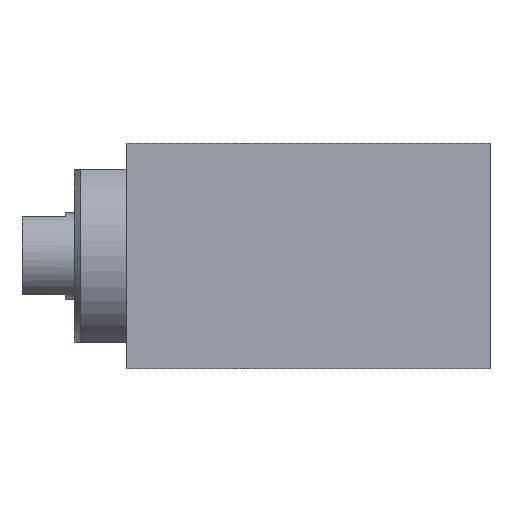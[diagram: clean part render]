
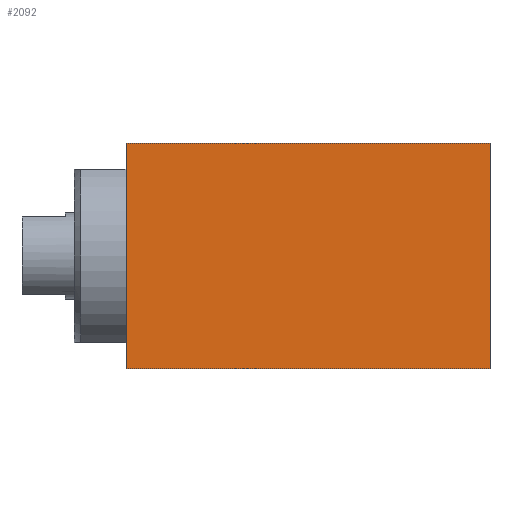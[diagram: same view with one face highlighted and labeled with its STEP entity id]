
A CAD part, front view. The second image highlights one B-rep face of the part: STEP entity #2092.
In plain terms, the highlighted planar face has unit normal (0, -1, 0).
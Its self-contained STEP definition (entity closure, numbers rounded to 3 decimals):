
#29 = DIRECTION ( 'NONE',  ( 0., -1., 0. ) ) ;
#37 = VERTEX_POINT ( 'NONE', #153 ) ;
#45 = ORIENTED_EDGE ( 'NONE', *, *, #1684, .F. ) ;
#72 = VECTOR ( 'NONE', #2590, 1000. ) ;
#75 = VERTEX_POINT ( 'NONE', #2902 ) ;
#120 = CARTESIAN_POINT ( 'NONE',  ( 21., -11., -6.5 ) ) ;
#153 = CARTESIAN_POINT ( 'NONE',  ( 0., -11., -6.5 ) ) ;
#212 = VERTEX_POINT ( 'NONE', #418 ) ;
#220 = DIRECTION ( 'NONE',  ( 0., 0., 1. ) ) ;
#271 = VECTOR ( 'NONE', #291, 1000. ) ;
#272 = DIRECTION ( 'NONE',  ( 0., 0., 1. ) ) ;
#291 = DIRECTION ( 'NONE',  ( -1., 0., 0. ) ) ;
#418 = CARTESIAN_POINT ( 'NONE',  ( 21., -11., -6.5 ) ) ;
#983 = CARTESIAN_POINT ( 'NONE',  ( 21., -11., -6.5 ) ) ;
#1043 = ORIENTED_EDGE ( 'NONE', *, *, #2125, .T. ) ;
#1081 = EDGE_CURVE ( 'NONE', #212, #75, #1707, .T. ) ;
#1183 = VECTOR ( 'NONE', #220, 1000. ) ;
#1340 = ORIENTED_EDGE ( 'NONE', *, *, #1081, .T. ) ;
#1438 = LINE ( 'NONE', #2326, #1183 ) ;
#1592 = EDGE_CURVE ( 'NONE', #37, #1671, #1438, .T. ) ;
#1664 = CARTESIAN_POINT ( 'NONE',  ( 21., -11., 6.5 ) ) ;
#1671 = VERTEX_POINT ( 'NONE', #2909 ) ;
#1684 = EDGE_CURVE ( 'NONE', #212, #37, #2674, .T. ) ;
#1695 = FACE_OUTER_BOUND ( 'NONE', #2389, .T. ) ;
#1707 = LINE ( 'NONE', #2634, #2623 ) ;
#1878 = DIRECTION ( 'NONE',  ( 1., 0., 0. ) ) ;
#2092 = ADVANCED_FACE ( 'NONE', ( #1695 ), #2120, .T. ) ;
#2120 = PLANE ( 'NONE',  #2856 ) ;
#2125 = EDGE_CURVE ( 'NONE', #75, #1671, #2322, .T. ) ;
#2322 = LINE ( 'NONE', #1664, #72 ) ;
#2326 = CARTESIAN_POINT ( 'NONE',  ( 0., -11., -6.5 ) ) ;
#2389 = EDGE_LOOP ( 'NONE', ( #2443, #45, #1340, #1043 ) ) ;
#2443 = ORIENTED_EDGE ( 'NONE', *, *, #1592, .F. ) ;
#2590 = DIRECTION ( 'NONE',  ( -1., 0., 0. ) ) ;
#2623 = VECTOR ( 'NONE', #272, 1000. ) ;
#2634 = CARTESIAN_POINT ( 'NONE',  ( 21., -11., -6.5 ) ) ;
#2674 = LINE ( 'NONE', #120, #271 ) ;
#2856 = AXIS2_PLACEMENT_3D ( 'NONE', #983, #29, #1878 ) ;
#2902 = CARTESIAN_POINT ( 'NONE',  ( 21., -11., 6.5 ) ) ;
#2909 = CARTESIAN_POINT ( 'NONE',  ( 0., -11., 6.5 ) ) ;
